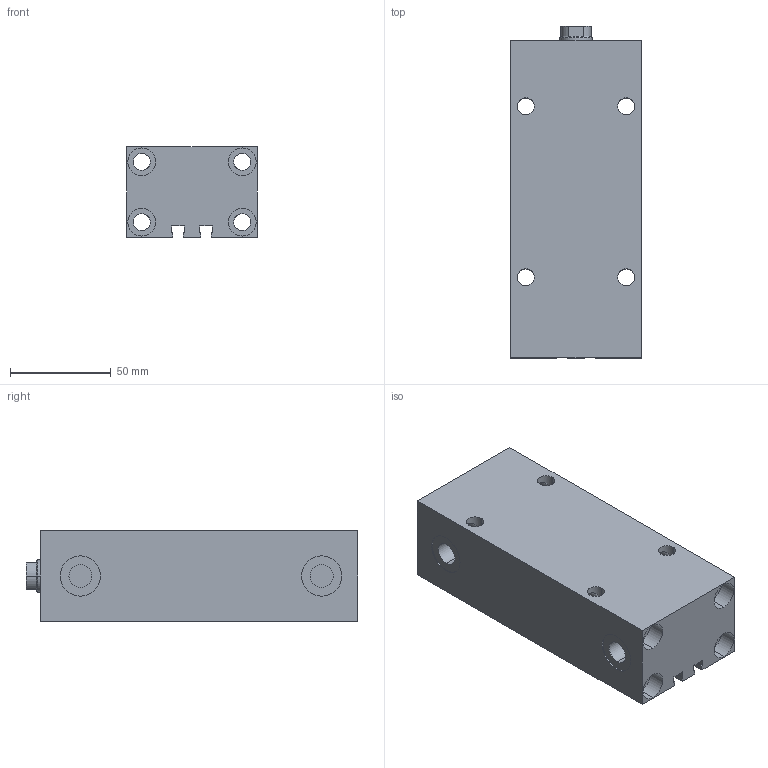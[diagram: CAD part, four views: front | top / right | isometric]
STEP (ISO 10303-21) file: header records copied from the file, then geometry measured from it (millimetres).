
FILE_DESCRIPTION (( 'STEP AP203' ), '1' );
FILE_NAME ('GERMA_Blockzylinder_700-025-100.STEP', '2016-08-01T16:59:09', ( '' ), ( '' ), 'SwSTEP 2.0', 'SolidWorks 2015', '' );
FILE_SCHEMA (( 'CONFIG_CONTROL_DESIGN' ));
Length unit declared in the file: millimetre
Products named in the file (3): GERMA_Blockzylinder_700-025-100; GH-700-025_GH-700-025-100; Kolben_MT 70x-025_Kolben_MT DU.25-Hub100-IG
Assembly tree (2 placements, depth 2):
  GERMA_Blockzylinder_700-025-100
    GH-700-025_GH-700-025-100
    Kolben_MT 70x-025_Kolben_MT DU.25-Hub100-IG
Bounding box: 65 x 165 x 45 mm (x, y, z)
Volume: 370341.8 mm3; surface area: 86270.8 mm2
Topology: 2 solids, 2 shells, 156 faces, 382 edges, 230 vertices
Faces by surface type: cylinder 95, plane 47, cone 14
Entity records: 4870 total; most frequent: CARTESIAN_POINT 959, DIRECTION 771, ORIENTED_EDGE 752, EDGE_CURVE 376, AXIS2_PLACEMENT_3D 298, VERTEX_POINT 230, EDGE_LOOP 194, VECTOR 175
